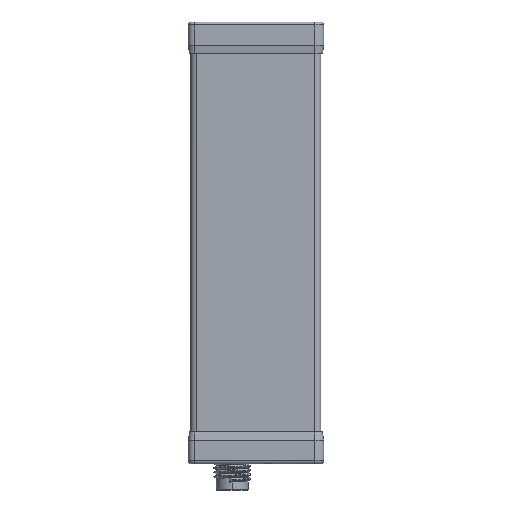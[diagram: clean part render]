
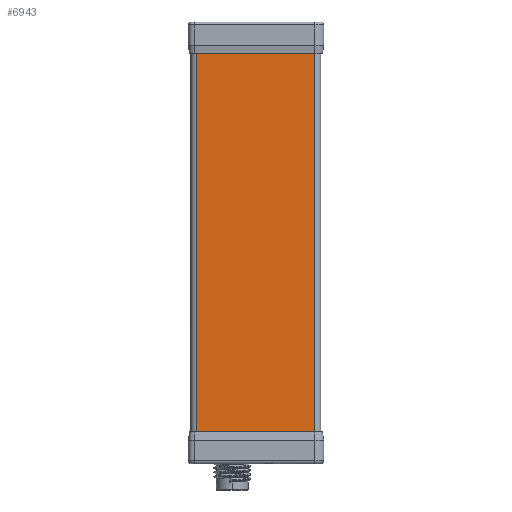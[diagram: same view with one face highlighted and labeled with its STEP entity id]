
A CAD part, left-side view. The second image highlights one B-rep face of the part: STEP entity #6943.
In plain terms, the highlighted planar face has unit normal (-1, 0, 0).
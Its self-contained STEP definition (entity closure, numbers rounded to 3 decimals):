
#6635 = VERTEX_POINT ( 'NONE', #16276 ) ;
#6637 = EDGE_CURVE ( 'NONE', #6638, #6635, #16275, .T. ) ;
#6638 = VERTEX_POINT ( 'NONE', #16271 ) ;
#6943 = ADVANCED_FACE ( 'NONE', ( #17501 ), #17565, .T. ) ;
#6944 = EDGE_LOOP ( 'NONE', ( #6945, #6948, #6949, #6952 ) ) ;
#6945 = ORIENTED_EDGE ( 'NONE', *, *, #6946, .F. ) ;
#6946 = EDGE_CURVE ( 'NONE', #6638, #6947, #17522, .T. ) ;
#6947 = VERTEX_POINT ( 'NONE', #17543 ) ;
#6948 = ORIENTED_EDGE ( 'NONE', *, *, #6637, .T. ) ;
#6949 = ORIENTED_EDGE ( 'NONE', *, *, #6950, .F. ) ;
#6950 = EDGE_CURVE ( 'NONE', #6951, #6635, #17542, .T. ) ;
#6951 = VERTEX_POINT ( 'NONE', #17490 ) ;
#6952 = ORIENTED_EDGE ( 'NONE', *, *, #6953, .T. ) ;
#6953 = EDGE_CURVE ( 'NONE', #6951, #6947, #17508, .T. ) ;
#16271 = CARTESIAN_POINT ( 'NONE',  ( -31.97, 26.85, 68. ) ) ;
#16272 = DIRECTION ( 'NONE',  ( 0., 0., -1. ) ) ;
#16273 = VECTOR ( 'NONE', #16272, 1000. ) ;
#16274 = CARTESIAN_POINT ( 'NONE',  ( -31.97, 26.85, 70. ) ) ;
#16275 = LINE ( 'NONE', #16274, #16273 ) ;
#16276 = CARTESIAN_POINT ( 'NONE',  ( -31.97, 26.85, -63. ) ) ;
#17490 = CARTESIAN_POINT ( 'NONE',  ( -31.97, -14.15, -63. ) ) ;
#17491 = DIRECTION ( 'NONE',  ( 0., 1., 0. ) ) ;
#17492 = VECTOR ( 'NONE', #17491, 1000. ) ;
#17493 = CARTESIAN_POINT ( 'NONE',  ( -31.97, -46.862, -63. ) ) ;
#17501 = FACE_OUTER_BOUND ( 'NONE', #6944, .T. ) ;
#17505 = DIRECTION ( 'NONE',  ( 0., 0., 1. ) ) ;
#17506 = VECTOR ( 'NONE', #17505, 1000. ) ;
#17507 = CARTESIAN_POINT ( 'NONE',  ( -31.97, -14.15, 70. ) ) ;
#17508 = LINE ( 'NONE', #17507, #17506 ) ;
#17519 = DIRECTION ( 'NONE',  ( 0., -1., 0. ) ) ;
#17520 = VECTOR ( 'NONE', #17519, 1000. ) ;
#17521 = CARTESIAN_POINT ( 'NONE',  ( -31.97, 6.25, 68. ) ) ;
#17522 = LINE ( 'NONE', #17521, #17520 ) ;
#17542 = LINE ( 'NONE', #17493, #17492 ) ;
#17543 = CARTESIAN_POINT ( 'NONE',  ( -31.97, -14.15, 68. ) ) ;
#17564 = AXIS2_PLACEMENT_3D ( 'NONE', #17629, #17628, #17627 ) ;
#17565 = PLANE ( 'NONE',  #17564 ) ;
#17627 = DIRECTION ( 'NONE',  ( 0., -1., 0. ) ) ;
#17628 = DIRECTION ( 'NONE',  ( -1., 0., 0. ) ) ;
#17629 = CARTESIAN_POINT ( 'NONE',  ( -31.97, -46.862, 70. ) ) ;
